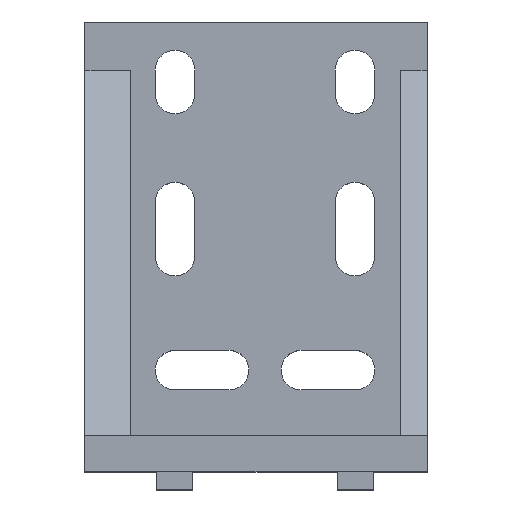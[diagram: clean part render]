
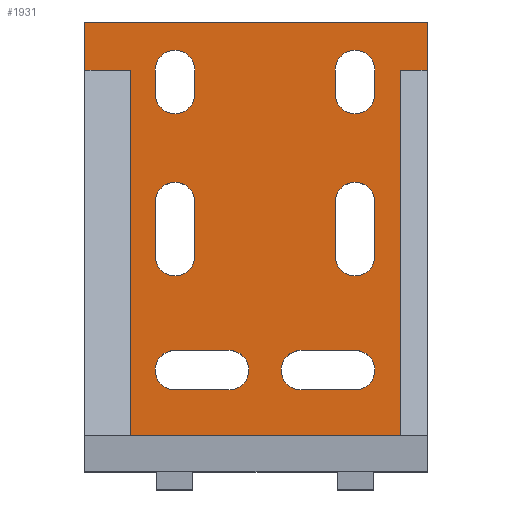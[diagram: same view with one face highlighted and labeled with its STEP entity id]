
A CAD part, top view. The second image highlights one B-rep face of the part: STEP entity #1931.
In plain terms, the highlighted planar face has unit normal (0, 0, 1).
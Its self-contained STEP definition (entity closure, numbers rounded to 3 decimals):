
#59=CIRCLE('',#2060,3.3);
#60=CIRCLE('',#2061,3.3);
#61=CIRCLE('',#2062,3.3);
#62=CIRCLE('',#2063,3.3);
#63=CIRCLE('',#2064,3.3);
#64=CIRCLE('',#2065,3.3);
#65=CIRCLE('',#2066,3.3);
#66=CIRCLE('',#2067,3.3);
#67=CIRCLE('',#2068,3.3);
#68=CIRCLE('',#2069,3.3);
#69=CIRCLE('',#2070,3.3);
#70=CIRCLE('',#2071,3.3);
#317=ORIENTED_EDGE('',*,*,#742,.T.);
#318=ORIENTED_EDGE('',*,*,#788,.T.);
#319=ORIENTED_EDGE('',*,*,#737,.F.);
#320=ORIENTED_EDGE('',*,*,#790,.F.);
#321=ORIENTED_EDGE('',*,*,#757,.F.);
#322=ORIENTED_EDGE('',*,*,#791,.F.);
#323=ORIENTED_EDGE('',*,*,#747,.F.);
#324=ORIENTED_EDGE('',*,*,#792,.T.);
#325=ORIENTED_EDGE('',*,*,#793,.T.);
#326=ORIENTED_EDGE('',*,*,#794,.T.);
#327=ORIENTED_EDGE('',*,*,#795,.T.);
#328=ORIENTED_EDGE('',*,*,#796,.T.);
#329=ORIENTED_EDGE('',*,*,#797,.T.);
#330=ORIENTED_EDGE('',*,*,#798,.T.);
#331=ORIENTED_EDGE('',*,*,#799,.T.);
#332=ORIENTED_EDGE('',*,*,#800,.T.);
#333=ORIENTED_EDGE('',*,*,#801,.T.);
#334=ORIENTED_EDGE('',*,*,#802,.T.);
#335=ORIENTED_EDGE('',*,*,#803,.T.);
#336=ORIENTED_EDGE('',*,*,#804,.T.);
#337=ORIENTED_EDGE('',*,*,#805,.T.);
#338=ORIENTED_EDGE('',*,*,#806,.T.);
#339=ORIENTED_EDGE('',*,*,#807,.T.);
#340=ORIENTED_EDGE('',*,*,#808,.T.);
#341=ORIENTED_EDGE('',*,*,#809,.T.);
#342=ORIENTED_EDGE('',*,*,#810,.T.);
#343=ORIENTED_EDGE('',*,*,#811,.T.);
#344=ORIENTED_EDGE('',*,*,#812,.T.);
#345=ORIENTED_EDGE('',*,*,#813,.T.);
#346=ORIENTED_EDGE('',*,*,#814,.T.);
#347=ORIENTED_EDGE('',*,*,#815,.T.);
#348=ORIENTED_EDGE('',*,*,#816,.T.);
#737=EDGE_CURVE('',#978,#979,#1192,.T.);
#742=EDGE_CURVE('',#981,#983,#1197,.T.);
#747=EDGE_CURVE('',#988,#989,#1202,.T.);
#757=EDGE_CURVE('',#998,#999,#1210,.T.);
#788=EDGE_CURVE('',#983,#979,#1229,.T.);
#790=EDGE_CURVE('',#999,#978,#1231,.T.);
#791=EDGE_CURVE('',#989,#998,#1232,.T.);
#792=EDGE_CURVE('',#988,#981,#1233,.T.);
#793=EDGE_CURVE('',#1024,#1025,#1234,.T.);
#794=EDGE_CURVE('',#1025,#1026,#59,.T.);
#795=EDGE_CURVE('',#1026,#1027,#1235,.T.);
#796=EDGE_CURVE('',#1027,#1024,#60,.T.);
#797=EDGE_CURVE('',#1028,#1029,#1236,.T.);
#798=EDGE_CURVE('',#1029,#1030,#61,.T.);
#799=EDGE_CURVE('',#1030,#1031,#1237,.T.);
#800=EDGE_CURVE('',#1031,#1028,#62,.T.);
#801=EDGE_CURVE('',#1032,#1033,#1238,.T.);
#802=EDGE_CURVE('',#1033,#1034,#63,.T.);
#803=EDGE_CURVE('',#1034,#1035,#1239,.T.);
#804=EDGE_CURVE('',#1035,#1032,#64,.T.);
#805=EDGE_CURVE('',#1036,#1037,#1240,.T.);
#806=EDGE_CURVE('',#1037,#1038,#65,.T.);
#807=EDGE_CURVE('',#1038,#1039,#1241,.T.);
#808=EDGE_CURVE('',#1039,#1036,#66,.T.);
#809=EDGE_CURVE('',#1040,#1041,#1242,.T.);
#810=EDGE_CURVE('',#1041,#1042,#67,.T.);
#811=EDGE_CURVE('',#1042,#1043,#1243,.T.);
#812=EDGE_CURVE('',#1043,#1040,#68,.T.);
#813=EDGE_CURVE('',#1044,#1045,#1244,.T.);
#814=EDGE_CURVE('',#1045,#1046,#69,.T.);
#815=EDGE_CURVE('',#1046,#1047,#1245,.T.);
#816=EDGE_CURVE('',#1047,#1044,#70,.T.);
#978=VERTEX_POINT('',#2879);
#979=VERTEX_POINT('',#2880);
#981=VERTEX_POINT('',#2886);
#983=VERTEX_POINT('',#2889);
#988=VERTEX_POINT('',#2900);
#989=VERTEX_POINT('',#2902);
#998=VERTEX_POINT('',#2921);
#999=VERTEX_POINT('',#2923);
#1024=VERTEX_POINT('',#2988);
#1025=VERTEX_POINT('',#2989);
#1026=VERTEX_POINT('',#2991);
#1027=VERTEX_POINT('',#2993);
#1028=VERTEX_POINT('',#2996);
#1029=VERTEX_POINT('',#2997);
#1030=VERTEX_POINT('',#2999);
#1031=VERTEX_POINT('',#3001);
#1032=VERTEX_POINT('',#3004);
#1033=VERTEX_POINT('',#3005);
#1034=VERTEX_POINT('',#3007);
#1035=VERTEX_POINT('',#3009);
#1036=VERTEX_POINT('',#3012);
#1037=VERTEX_POINT('',#3013);
#1038=VERTEX_POINT('',#3015);
#1039=VERTEX_POINT('',#3017);
#1040=VERTEX_POINT('',#3020);
#1041=VERTEX_POINT('',#3021);
#1042=VERTEX_POINT('',#3023);
#1043=VERTEX_POINT('',#3025);
#1044=VERTEX_POINT('',#3028);
#1045=VERTEX_POINT('',#3029);
#1046=VERTEX_POINT('',#3031);
#1047=VERTEX_POINT('',#3033);
#1192=LINE('',#2878,#1415);
#1197=LINE('',#2890,#1420);
#1202=LINE('',#2901,#1425);
#1210=LINE('',#2922,#1433);
#1229=LINE('',#2981,#1452);
#1231=LINE('',#2984,#1454);
#1232=LINE('',#2985,#1455);
#1233=LINE('',#2986,#1456);
#1234=LINE('',#2987,#1457);
#1235=LINE('',#2992,#1458);
#1236=LINE('',#2995,#1459);
#1237=LINE('',#3000,#1460);
#1238=LINE('',#3003,#1461);
#1239=LINE('',#3008,#1462);
#1240=LINE('',#3011,#1463);
#1241=LINE('',#3016,#1464);
#1242=LINE('',#3019,#1465);
#1243=LINE('',#3024,#1466);
#1244=LINE('',#3027,#1467);
#1245=LINE('',#3032,#1468);
#1415=VECTOR('',#2329,1000.);
#1420=VECTOR('',#2336,1000.);
#1425=VECTOR('',#2343,1000.);
#1433=VECTOR('',#2357,1000.);
#1452=VECTOR('',#2406,1000.);
#1454=VECTOR('',#2410,1000.);
#1455=VECTOR('',#2411,1000.);
#1456=VECTOR('',#2412,1000.);
#1457=VECTOR('',#2413,1000.);
#1458=VECTOR('',#2416,1000.);
#1459=VECTOR('',#2419,1000.);
#1460=VECTOR('',#2422,1000.);
#1461=VECTOR('',#2425,1000.);
#1462=VECTOR('',#2428,1000.);
#1463=VECTOR('',#2431,1000.);
#1464=VECTOR('',#2434,1000.);
#1465=VECTOR('',#2437,1000.);
#1466=VECTOR('',#2440,1000.);
#1467=VECTOR('',#2443,1000.);
#1468=VECTOR('',#2446,1000.);
#1595=EDGE_LOOP('',(#317,#318,#319,#320,#321,#322,#323,#324));
#1596=EDGE_LOOP('',(#325,#326,#327,#328));
#1597=EDGE_LOOP('',(#329,#330,#331,#332));
#1598=EDGE_LOOP('',(#333,#334,#335,#336));
#1599=EDGE_LOOP('',(#337,#338,#339,#340));
#1600=EDGE_LOOP('',(#341,#342,#343,#344));
#1601=EDGE_LOOP('',(#345,#346,#347,#348));
#1728=FACE_BOUND('',#1595,.T.);
#1729=FACE_BOUND('',#1596,.T.);
#1730=FACE_BOUND('',#1597,.T.);
#1731=FACE_BOUND('',#1598,.T.);
#1732=FACE_BOUND('',#1599,.T.);
#1733=FACE_BOUND('',#1600,.T.);
#1734=FACE_BOUND('',#1601,.T.);
#1854=PLANE('',#2059);
#1931=ADVANCED_FACE('',(#1728,#1729,#1730,#1731,#1732,#1733,#1734),#1854,
 .F.);
#2059=AXIS2_PLACEMENT_3D('',#2983,#2408,#2409);
#2060=AXIS2_PLACEMENT_3D('',#2990,#2414,#2415);
#2061=AXIS2_PLACEMENT_3D('',#2994,#2417,#2418);
#2062=AXIS2_PLACEMENT_3D('',#2998,#2420,#2421);
#2063=AXIS2_PLACEMENT_3D('',#3002,#2423,#2424);
#2064=AXIS2_PLACEMENT_3D('',#3006,#2426,#2427);
#2065=AXIS2_PLACEMENT_3D('',#3010,#2429,#2430);
#2066=AXIS2_PLACEMENT_3D('',#3014,#2432,#2433);
#2067=AXIS2_PLACEMENT_3D('',#3018,#2435,#2436);
#2068=AXIS2_PLACEMENT_3D('',#3022,#2438,#2439);
#2069=AXIS2_PLACEMENT_3D('',#3026,#2441,#2442);
#2070=AXIS2_PLACEMENT_3D('',#3030,#2444,#2445);
#2071=AXIS2_PLACEMENT_3D('',#3034,#2447,#2448);
#2329=DIRECTION('',(0.,-1.,0.));
#2336=DIRECTION('',(0.,-1.,0.));
#2343=DIRECTION('',(0.,1.,0.));
#2357=DIRECTION('',(0.,-1.,0.));
#2406=DIRECTION('',(1.,0.,0.));
#2408=DIRECTION('',(0.,0.,-1.));
#2409=DIRECTION('',(0.,1.,0.));
#2410=DIRECTION('',(-1.,0.,0.));
#2411=DIRECTION('',(1.,0.,0.));
#2412=DIRECTION('',(1.,0.,0.));
#2413=DIRECTION('',(0.,1.,0.));
#2414=DIRECTION('',(0.,0.,-1.));
#2415=DIRECTION('',(0.,1.,0.));
#2416=DIRECTION('',(0.,-1.,0.));
#2417=DIRECTION('',(0.,0.,-1.));
#2418=DIRECTION('',(0.,1.,0.));
#2419=DIRECTION('',(0.,1.,0.));
#2420=DIRECTION('',(0.,0.,-1.));
#2421=DIRECTION('',(0.,1.,0.));
#2422=DIRECTION('',(0.,-1.,0.));
#2423=DIRECTION('',(0.,0.,-1.));
#2424=DIRECTION('',(0.,1.,0.));
#2425=DIRECTION('',(-1.,0.,0.));
#2426=DIRECTION('',(0.,0.,-1.));
#2427=DIRECTION('',(0.,1.,0.));
#2428=DIRECTION('',(1.,0.,0.));
#2429=DIRECTION('',(0.,0.,-1.));
#2430=DIRECTION('',(0.,1.,0.));
#2431=DIRECTION('',(0.,1.,0.));
#2432=DIRECTION('',(0.,0.,-1.));
#2433=DIRECTION('',(0.,1.,0.));
#2434=DIRECTION('',(0.,-1.,0.));
#2435=DIRECTION('',(0.,0.,-1.));
#2436=DIRECTION('',(0.,1.,0.));
#2437=DIRECTION('',(0.,1.,0.));
#2438=DIRECTION('',(0.,0.,-1.));
#2439=DIRECTION('',(0.,1.,0.));
#2440=DIRECTION('',(0.,-1.,0.));
#2441=DIRECTION('',(0.,0.,-1.));
#2442=DIRECTION('',(0.,1.,0.));
#2443=DIRECTION('',(1.,0.,0.));
#2444=DIRECTION('',(0.,0.,-1.));
#2445=DIRECTION('',(0.,1.,0.));
#2446=DIRECTION('',(-1.,0.,0.));
#2447=DIRECTION('',(0.,0.,-1.));
#2448=DIRECTION('',(0.,1.,0.));
#2878=CARTESIAN_POINT('',(24.1,6.,6.));
#2879=CARTESIAN_POINT('',(24.1,67.,6.));
#2880=CARTESIAN_POINT('',(24.1,6.,6.));
#2886=CARTESIAN_POINT('',(-20.9,67.,6.));
#2889=CARTESIAN_POINT('',(-20.9,6.,6.));
#2890=CARTESIAN_POINT('',(-20.9,75.,6.));
#2900=CARTESIAN_POINT('',(-28.5,67.,6.));
#2901=CARTESIAN_POINT('',(-28.5,0.,6.));
#2902=CARTESIAN_POINT('',(-28.5,75.,6.));
#2921=CARTESIAN_POINT('',(28.5,75.,6.));
#2922=CARTESIAN_POINT('',(28.5,75.,6.));
#2923=CARTESIAN_POINT('',(28.5,67.,6.));
#2981=CARTESIAN_POINT('',(28.5,6.,6.));
#2983=CARTESIAN_POINT('',(28.5,75.,6.));
#2984=CARTESIAN_POINT('',(28.5,67.,6.));
#2985=CARTESIAN_POINT('',(28.5,75.,6.));
#2986=CARTESIAN_POINT('',(28.5,67.,6.));
#2987=CARTESIAN_POINT('',(-16.8,75.,6.));
#2988=CARTESIAN_POINT('',(-16.8,63.,6.));
#2989=CARTESIAN_POINT('',(-16.8,67.,6.));
#2990=CARTESIAN_POINT('',(-13.5,67.,6.));
#2991=CARTESIAN_POINT('',(-10.2,67.,6.));
#2992=CARTESIAN_POINT('',(-10.2,75.,6.));
#2993=CARTESIAN_POINT('',(-10.2,63.,6.));
#2994=CARTESIAN_POINT('',(-13.5,63.,6.));
#2995=CARTESIAN_POINT('',(-16.8,75.,6.));
#2996=CARTESIAN_POINT('',(-16.8,36.,6.));
#2997=CARTESIAN_POINT('',(-16.8,45.,6.));
#2998=CARTESIAN_POINT('',(-13.5,45.,6.));
#2999=CARTESIAN_POINT('',(-10.2,45.,6.));
#3000=CARTESIAN_POINT('',(-10.2,75.,6.));
#3001=CARTESIAN_POINT('',(-10.2,36.,6.));
#3002=CARTESIAN_POINT('',(-13.5,36.,6.));
#3003=CARTESIAN_POINT('',(28.5,13.7,6.));
#3004=CARTESIAN_POINT('',(-4.5,13.7,6.));
#3005=CARTESIAN_POINT('',(-13.5,13.7,6.));
#3006=CARTESIAN_POINT('',(-13.5,17.,6.));
#3007=CARTESIAN_POINT('',(-13.5,20.3,6.));
#3008=CARTESIAN_POINT('',(28.5,20.3,6.));
#3009=CARTESIAN_POINT('',(-4.5,20.3,6.));
#3010=CARTESIAN_POINT('',(-4.5,17.,6.));
#3011=CARTESIAN_POINT('',(13.2,75.,6.));
#3012=CARTESIAN_POINT('',(13.2,63.,6.));
#3013=CARTESIAN_POINT('',(13.2,67.,6.));
#3014=CARTESIAN_POINT('',(16.5,67.,6.));
#3015=CARTESIAN_POINT('',(19.8,67.,6.));
#3016=CARTESIAN_POINT('',(19.8,75.,6.));
#3017=CARTESIAN_POINT('',(19.8,63.,6.));
#3018=CARTESIAN_POINT('',(16.5,63.,6.));
#3019=CARTESIAN_POINT('',(13.2,75.,6.));
#3020=CARTESIAN_POINT('',(13.2,36.,6.));
#3021=CARTESIAN_POINT('',(13.2,45.,6.));
#3022=CARTESIAN_POINT('',(16.5,45.,6.));
#3023=CARTESIAN_POINT('',(19.8,45.,6.));
#3024=CARTESIAN_POINT('',(19.8,75.,6.));
#3025=CARTESIAN_POINT('',(19.8,36.,6.));
#3026=CARTESIAN_POINT('',(16.5,36.,6.));
#3027=CARTESIAN_POINT('',(28.5,20.3,6.));
#3028=CARTESIAN_POINT('',(7.5,20.3,6.));
#3029=CARTESIAN_POINT('',(16.5,20.3,6.));
#3030=CARTESIAN_POINT('',(16.5,17.,6.));
#3031=CARTESIAN_POINT('',(16.5,13.7,6.));
#3032=CARTESIAN_POINT('',(28.5,13.7,6.));
#3033=CARTESIAN_POINT('',(7.5,13.7,6.));
#3034=CARTESIAN_POINT('',(7.5,17.,6.));
